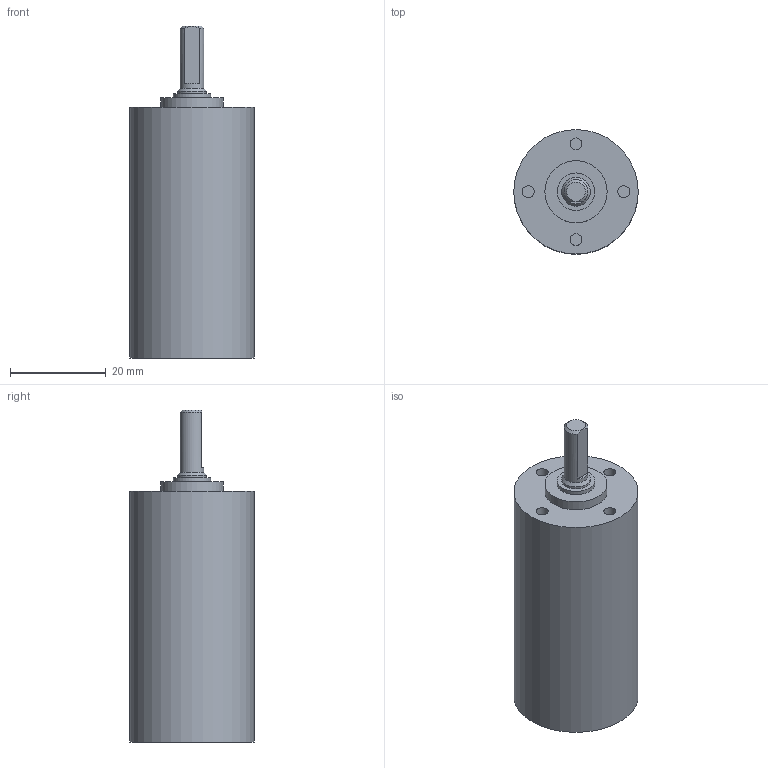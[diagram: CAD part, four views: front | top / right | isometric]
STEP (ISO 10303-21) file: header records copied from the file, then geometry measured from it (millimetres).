
FILE_DESCRIPTION(/* description */ (''),/* implementation_level */ '2;1');
FILE_NAME(/* name */ '26-1R_4stage.stp',/* time_stamp */ '2017-04-18T12:20:34+02:00',/* author */ ('DR. FRITZ FAULHABER GmbH & Co. KG'),/* organization */ ('DR. FRITZ FAULHABER GmbH & Co. KG'),/* preprocessor_version */ 'ST-DEVELOPER v16',/* originating_system */ 'SIEMENS PLM Software NX 10.0',/* authorisation */ '');
FILE_SCHEMA (('AUTOMOTIVE_DESIGN { 1 0 10303 214 3 1 1 1 }'));
Length unit declared in the file: millimetre
Products named in the file (1): H00000166_B
Bounding box: 26 x 26 x 69.4 mm (x, y, z)
Volume: 23930 mm3; surface area: 6649.7 mm2
Topology: 1 solids, 1 shells, 34 faces, 57 edges, 38 vertices
Faces by surface type: plane 17, cylinder 15, cone 2
Full cylindrical faces by diameter (mm): 2.5 x4, 5 x1, 6 x1, 7.85 x1, 11.69 x1, 11.7 x1, 13 x1, 21.5 x1, 22.05 x1, 24 x1, 24.459 x1, 26 x1
Entity records: 723 total; most frequent: DIRECTION 137, CARTESIAN_POINT 112, ORIENTED_EDGE 74, AXIS2_PLACEMENT_3D 67, EDGE_LOOP 63, FACE_BOUND 54, EDGE_CURVE 37, ADVANCED_FACE 34
